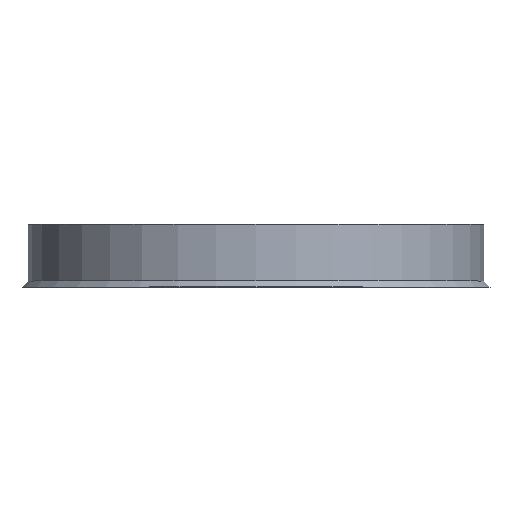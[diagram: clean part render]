
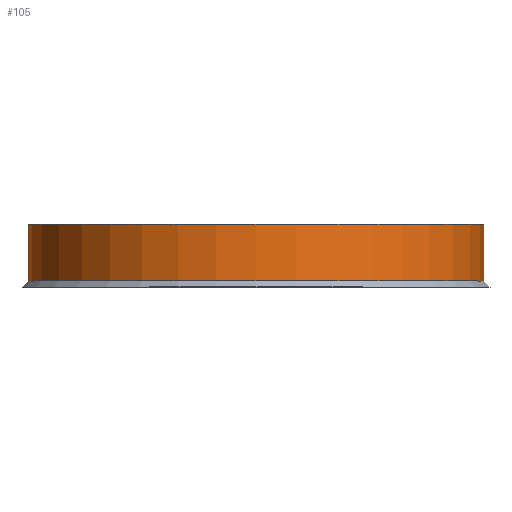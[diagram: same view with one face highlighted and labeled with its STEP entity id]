
A CAD part, top view. The second image highlights one B-rep face of the part: STEP entity #105.
In plain terms, the highlighted cylindrical face has radius 36.3 mm (diameter 72.6 mm), a full revolution.
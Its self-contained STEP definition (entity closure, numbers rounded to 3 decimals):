
#18=CYLINDRICAL_SURFACE('',#142,36.3);
#24=FACE_OUTER_BOUND('',#31,.T.);
#31=EDGE_LOOP('',(#91,#92,#93,#94,#95,#96));
#36=LINE('',#205,#41);
#41=VECTOR('',#177,36.3);
#42=CIRCLE('',#130,36.3);
#43=CIRCLE('',#131,36.3);
#48=CIRCLE('',#140,36.3);
#49=CIRCLE('',#141,36.3);
#50=VERTEX_POINT('',#180);
#51=VERTEX_POINT('',#181);
#56=VERTEX_POINT('',#199);
#57=VERTEX_POINT('',#200);
#58=EDGE_CURVE('',#50,#51,#42,.T.);
#59=EDGE_CURVE('',#51,#50,#43,.T.);
#67=EDGE_CURVE('',#56,#57,#48,.T.);
#69=EDGE_CURVE('',#57,#56,#49,.T.);
#70=EDGE_CURVE('',#51,#57,#36,.T.);
#91=ORIENTED_EDGE('',*,*,#58,.F.);
#92=ORIENTED_EDGE('',*,*,#59,.F.);
#93=ORIENTED_EDGE('',*,*,#70,.T.);
#94=ORIENTED_EDGE('',*,*,#69,.T.);
#95=ORIENTED_EDGE('',*,*,#67,.T.);
#96=ORIENTED_EDGE('',*,*,#70,.F.);
#105=ADVANCED_FACE('',(#24),#18,.T.);
#130=AXIS2_PLACEMENT_3D('',#182,#147,#148);
#131=AXIS2_PLACEMENT_3D('',#183,#149,#150);
#140=AXIS2_PLACEMENT_3D('',#201,#170,#171);
#141=AXIS2_PLACEMENT_3D('',#203,#173,#174);
#142=AXIS2_PLACEMENT_3D('',#204,#175,#176);
#147=DIRECTION('center_axis',(0.,1.,0.));
#148=DIRECTION('ref_axis',(-1.,0.,0.));
#149=DIRECTION('center_axis',(0.,1.,0.));
#150=DIRECTION('ref_axis',(-1.,0.,0.));
#170=DIRECTION('center_axis',(0.,1.,0.));
#171=DIRECTION('ref_axis',(-1.,0.,0.));
#173=DIRECTION('center_axis',(0.,1.,0.));
#174=DIRECTION('ref_axis',(-1.,0.,0.));
#175=DIRECTION('center_axis',(0.,1.,0.));
#176=DIRECTION('ref_axis',(-1.,0.,0.));
#177=DIRECTION('',(0.,-1.,0.));
#180=CARTESIAN_POINT('',(-36.3,10.,0.));
#181=CARTESIAN_POINT('',(36.3,10.,0.));
#182=CARTESIAN_POINT('Origin',(0.,10.,0.));
#183=CARTESIAN_POINT('Origin',(0.,10.,0.));
#199=CARTESIAN_POINT('',(-36.3,1.,0.));
#200=CARTESIAN_POINT('',(36.3,1.,0.));
#201=CARTESIAN_POINT('Origin',(0.,1.,0.));
#203=CARTESIAN_POINT('Origin',(0.,1.,0.));
#204=CARTESIAN_POINT('Origin',(0.,0.,0.));
#205=CARTESIAN_POINT('',(36.3,0.,0.));
